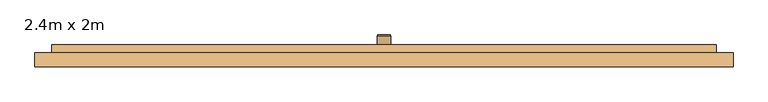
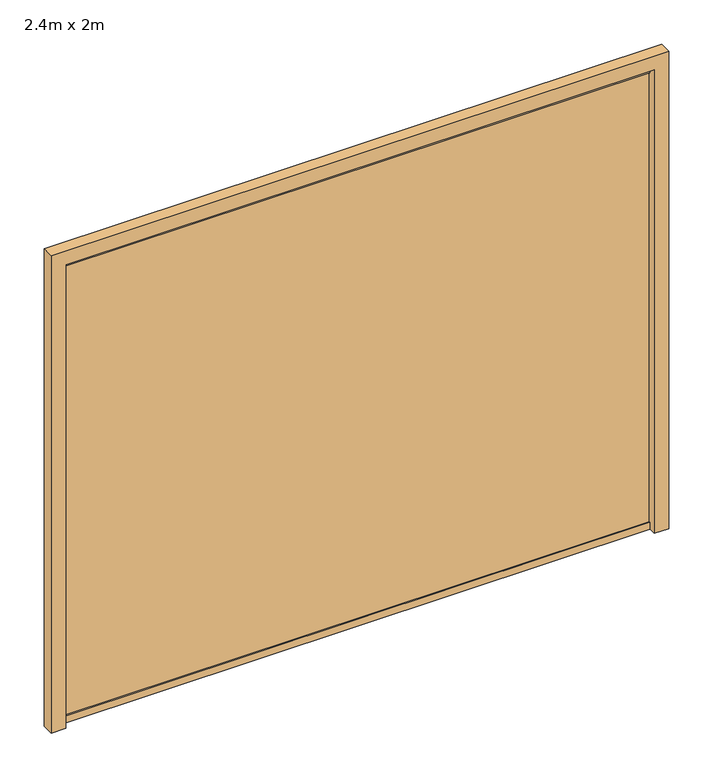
"""IFC4 building model written with IfcOpenShell, lengths in millimetres: door geometry, Garage basculante : 2.4m x 2m."""

from ifc_helpers import new_model, si_unit, frame, origin, place, context, project, spatial, polyline, circle_curve, outline, extrude, faceted_brep, source, transform, mapped, element, save
from ifc_brep_helpers import plane_surface, cylinder_surface, revolved_surface, advanced_brep


def door_2_4m_x_2m_3d3d9980(model_context):
    return source(origin(), model_context, "Body", "SolidModel", [
        advanced_brep(
        [(-37.902088, -383.5523258, 500.0), (7.902088, -383.5523258, 500.0), (10.0, -385.6502378, 500.0), (-40.0, -385.6502378, 500.0), (-15.0, -383.5523258, 500.0), (-40.0, -423.5523258, 500.0), (10.0, -423.5523258, 500.0), (-15.0, -423.5523258, 500.0)],
        [
            (0, 1, circle_curve(frame((-15.0, -383.5523258, 500.0), z_axis=(0.0, -1.0, 0.0), x_axis=(1.0, 0.0, 0.0)), 22.902088)),
            (1, 2),
            (2, 3, circle_curve(frame((-15.0, -385.6502378, 500.0), z_axis=(0.0, 1.0, 0.0), x_axis=(1.0, 0.0, 0.0)), 25.0)),
            (3, 0),
            (1, 0, circle_curve(frame((-15.0, -383.5523258, 500.0), z_axis=(0.0, -1.0, 0.0), x_axis=(1.0, 0.0, 0.0)), 22.902088)),
            (3, 2, circle_curve(frame((-15.0, -385.6502378, 500.0), z_axis=(0.0, 1.0, 0.0), x_axis=(1.0, 0.0, 0.0)), 25.0)),
            (4, 1),
            (0, 4),
            (5, 6, circle_curve(frame((-15.0, -423.5523258, 500.0), z_axis=(0.0, -1.0, 0.0), x_axis=(1.0, 0.0, 0.0)), 25.0)),
            (6, 7),
            (7, 5),
            (6, 5, circle_curve(frame((-15.0, -423.5523258, 500.0), z_axis=(0.0, -1.0, 0.0), x_axis=(1.0, 0.0, 0.0)), 25.0)),
            (2, 6),
            (5, 3),
        ],
        [
            revolved_surface(polyline([(10.0, -385.6502378, 500.0), (7.902088, -383.5523258, 500.0)]), (-15.0, 971.1651436, 500.0), (0.0, 1.0, 0.0)),
            plane_surface(frame((-15.0, -383.5523258, 500.0), z_axis=(0.0, 1.0, 0.0), x_axis=(1.0, 0.0, 0.0))),
            plane_surface(frame((-15.0, -423.5523258, 500.0), z_axis=(0.0, -1.0, 0.0), x_axis=(1.0, 0.0, 0.0))),
            cylinder_surface(frame((-15.0, 971.1651436, 500.0), z_axis=(0.0, 1.0, 0.0), x_axis=(1.0, 0.0, 0.0)), 25.0),
        ],
        [
            (0, [[1, 2, 3, 4]]),
            (0, [[5, -4, 6, -2]]),
            (1, [[7, -1, 8]]),
            (1, [[-8, -5, -7]]),
            (2, [[9, 10, 11]]),
            (2, [[12, -11, -10]]),
            (3, [[-3, 13, -9, 14]]),
            (3, [[-6, -14, -12, -13]]),
        ],
    ),
        faceted_brep([(-1215.0, -468.5523258, 2000.0), (1185.0, -468.5523258, 2000.0), (1185.0, -418.5523258, 2000.0), (-1215.0, -418.5523258, 2000.0), (1185.0, -468.5523258, 0.0), (-1215.0, -468.5523258, 0.0), (-1215.0, -418.5523258, 0.0), (1185.0, -418.5523258, 0.0), (1117.5806452, -433.5523258, 1970.0), (1117.5806452, -433.5523258, 30.0), (1097.5806452, -433.5523258, 30.0), (1097.5806452, -433.5523258, 1970.0), (1097.5806452, -423.5523258, 30.0), (1097.5806452, -423.5523258, 1970.0), (1040.1612903, -423.5523258, 30.0), (1040.1612903, -423.5523258, 1970.0), (1040.1612903, -433.5523258, 30.0), (1040.1612903, -433.5523258, 1970.0), (1020.1612903, -433.5523258, 30.0), (1020.1612903, -433.5523258, 1970.0), (1020.1612903, -423.5523258, 30.0), (1020.1612903, -423.5523258, 1970.0), (962.7419355, -423.5523258, 30.0), (962.7419355, -423.5523258, 1970.0), (962.7419355, -433.5523258, 30.0), (962.7419355, -433.5523258, 1970.0), (942.7419355, -433.5523258, 30.0), (942.7419355, -433.5523258, 1970.0), (942.7419355, -423.5523258, 30.0), (942.7419355, -423.5523258, 1970.0), (885.3225806, -423.5523258, 30.0), (885.3225806, -423.5523258, 1970.0), (885.3225806, -433.5523258, 30.0), (885.3225806, -433.5523258, 1970.0), (865.3225806, -433.5523258, 30.0), (865.3225806, -433.5523258, 1970.0), (865.3225806, -423.5523258, 30.0), (865.3225806, -423.5523258, 1970.0), (807.9032258, -423.5523258, 30.0), (807.9032258, -423.5523258, 1970.0), (807.9032258, -433.5523258, 30.0), (807.9032258, -433.5523258, 1970.0), (787.9032258, -433.5523258, 30.0), (787.9032258, -433.5523258, 1970.0), (787.9032258, -423.5523258, 30.0), (787.9032258, -423.5523258, 1970.0), (730.483871, -423.5523258, 30.0), (730.483871, -423.5523258, 1970.0), (730.483871, -433.5523258, 30.0), (730.483871, -433.5523258, 1970.0), (710.483871, -433.5523258, 30.0), (710.483871, -433.5523258, 1970.0), (710.483871, -423.5523258, 30.0), (710.483871, -423.5523258, 1970.0), (653.0645161, -423.5523258, 30.0), (653.0645161, -423.5523258, 1970.0), (653.0645161, -433.5523258, 30.0), (653.0645161, -433.5523258, 1970.0), (633.0645161, -433.5523258, 30.0), (633.0645161, -433.5523258, 1970.0), (633.0645161, -423.5523258, 30.0), (633.0645161, -423.5523258, 1970.0), (575.6451613, -423.5523258, 30.0), (575.6451613, -423.5523258, 1970.0), (575.6451613, -433.5523258, 30.0), (575.6451613, -433.5523258, 1970.0), (555.6451613, -433.5523258, 30.0), (555.6451613, -433.5523258, 1970.0), (555.6451613, -423.5523258, 30.0), (555.6451613, -423.5523258, 1970.0), (498.2258065, -423.5523258, 30.0), (498.2258065, -423.5523258, 1970.0), (498.2258065, -433.5523258, 30.0), (498.2258065, -433.5523258, 1970.0), (478.2258065, -433.5523258, 30.0), (478.2258065, -433.5523258, 1970.0), (478.2258065, -423.5523258, 30.0), (478.2258065, -423.5523258, 1970.0), (420.8064516, -423.5523258, 30.0), (420.8064516, -423.5523258, 1970.0), (420.8064516, -433.5523258, 30.0), (420.8064516, -433.5523258, 1970.0), (400.8064516, -433.5523258, 30.0), (400.8064516, -433.5523258, 1970.0), (400.8064516, -423.5523258, 30.0), (400.8064516, -423.5523258, 1970.0), (343.3870968, -423.5523258, 30.0), (343.3870968, -423.5523258, 1970.0), (343.3870968, -433.5523258, 30.0), (343.3870968, -433.5523258, 1970.0), (323.3870968, -433.5523258, 30.0), (323.3870968, -433.5523258, 1970.0), (323.3870968, -423.5523258, 30.0), (323.3870968, -423.5523258, 1970.0), (265.9677419, -423.5523258, 30.0), (265.9677419, -423.5523258, 1970.0), (265.9677419, -433.5523258, 30.0), (265.9677419, -433.5523258, 1970.0), (245.9677419, -433.5523258, 30.0), (245.9677419, -433.5523258, 1970.0), (245.9677419, -423.5523258, 30.0), (245.9677419, -423.5523258, 1970.0), (188.5483871, -423.5523258, 30.0), (188.5483871, -423.5523258, 1970.0), (188.5483871, -433.5523258, 30.0), (188.5483871, -433.5523258, 1970.0), (168.5483871, -433.5523258, 30.0), (168.5483871, -433.5523258, 1970.0), (168.5483871, -423.5523258, 30.0), (168.5483871, -423.5523258, 1970.0), (111.1290323, -423.5523258, 30.0), (111.1290323, -423.5523258, 1970.0), (111.1290323, -433.5523258, 30.0), (111.1290323, -433.5523258, 1970.0), (91.1290323, -433.5523258, 30.0), (91.1290323, -433.5523258, 1970.0), (91.1290323, -423.5523258, 30.0), (91.1290323, -423.5523258, 1970.0), (33.7096774, -423.5523258, 30.0), (33.7096774, -423.5523258, 1970.0), (33.7096774, -433.5523258, 30.0), (33.7096774, -433.5523258, 1970.0), (13.7096774, -433.5523258, 30.0), (13.7096774, -433.5523258, 1970.0), (13.7096774, -423.5523258, 30.0), (13.7096774, -423.5523258, 1970.0), (-43.7096774, -423.5523258, 30.0), (-43.7096774, -423.5523258, 1970.0), (-43.7096774, -433.5523258, 30.0), (-43.7096774, -433.5523258, 1970.0), (-63.7096774, -433.5523258, 30.0), (-63.7096774, -433.5523258, 1970.0), (-63.7096774, -423.5523258, 30.0), (-63.7096774, -423.5523258, 1970.0), (-121.1290323, -423.5523258, 30.0), (-121.1290323, -423.5523258, 1970.0), (-121.1290323, -433.5523258, 30.0), (-121.1290323, -433.5523258, 1970.0), (-141.1290323, -433.5523258, 30.0), (-141.1290323, -433.5523258, 1970.0), (-141.1290323, -423.5523258, 30.0), (-141.1290323, -423.5523258, 1970.0), (-198.5483871, -423.5523258, 30.0), (-198.5483871, -423.5523258, 1970.0), (-198.5483871, -433.5523258, 30.0), (-198.5483871, -433.5523258, 1970.0), (-218.5483871, -433.5523258, 30.0), (-218.5483871, -433.5523258, 1970.0), (-218.5483871, -423.5523258, 30.0), (-218.5483871, -423.5523258, 1970.0), (-275.9677419, -423.5523258, 30.0), (-275.9677419, -423.5523258, 1970.0), (-275.9677419, -433.5523258, 30.0), (-275.9677419, -433.5523258, 1970.0), (-295.9677419, -433.5523258, 30.0), (-295.9677419, -433.5523258, 1970.0), (-295.9677419, -423.5523258, 30.0), (-295.9677419, -423.5523258, 1970.0), (-353.3870968, -423.5523258, 30.0), (-353.3870968, -423.5523258, 1970.0), (-353.3870968, -433.5523258, 30.0), (-353.3870968, -433.5523258, 1970.0), (-373.3870968, -433.5523258, 30.0), (-373.3870968, -433.5523258, 1970.0), (-373.3870968, -423.5523258, 30.0), (-373.3870968, -423.5523258, 1970.0), (-430.8064516, -423.5523258, 30.0), (-430.8064516, -423.5523258, 1970.0), (-430.8064516, -433.5523258, 30.0), (-430.8064516, -433.5523258, 1970.0), (-450.8064516, -433.5523258, 30.0), (-450.8064516, -433.5523258, 1970.0), (-450.8064516, -423.5523258, 30.0), (-450.8064516, -423.5523258, 1970.0), (-508.2258065, -423.5523258, 30.0), (-508.2258065, -423.5523258, 1970.0), (-508.2258065, -433.5523258, 30.0), (-508.2258065, -433.5523258, 1970.0), (-528.2258065, -433.5523258, 30.0), (-528.2258065, -433.5523258, 1970.0), (-528.2258065, -423.5523258, 30.0), (-528.2258065, -423.5523258, 1970.0), (-585.6451613, -423.5523258, 30.0), (-585.6451613, -423.5523258, 1970.0), (-585.6451613, -433.5523258, 30.0), (-585.6451613, -433.5523258, 1970.0), (-605.6451613, -433.5523258, 30.0), (-605.6451613, -433.5523258, 1970.0), (-605.6451613, -423.5523258, 30.0), (-605.6451613, -423.5523258, 1970.0), (-663.0645161, -423.5523258, 30.0), (-663.0645161, -423.5523258, 1970.0), (-663.0645161, -433.5523258, 30.0), (-663.0645161, -433.5523258, 1970.0), (-683.0645161, -433.5523258, 30.0), (-683.0645161, -433.5523258, 1970.0), (-683.0645161, -423.5523258, 30.0), (-683.0645161, -423.5523258, 1970.0), (-740.483871, -423.5523258, 30.0), (-740.483871, -423.5523258, 1970.0), (-740.483871, -433.5523258, 30.0), (-740.483871, -433.5523258, 1970.0), (-760.483871, -433.5523258, 30.0), (-760.483871, -433.5523258, 1970.0), (-760.483871, -423.5523258, 30.0), (-760.483871, -423.5523258, 1970.0), (-817.9032258, -423.5523258, 30.0), (-817.9032258, -423.5523258, 1970.0), (-817.9032258, -433.5523258, 30.0), (-817.9032258, -433.5523258, 1970.0), (-837.9032258, -433.5523258, 30.0), (-837.9032258, -433.5523258, 1970.0), (-837.9032258, -423.5523258, 30.0), (-837.9032258, -423.5523258, 1970.0), (-895.3225806, -423.5523258, 30.0), (-895.3225806, -423.5523258, 1970.0), (-895.3225806, -433.5523258, 30.0), (-895.3225806, -433.5523258, 1970.0), (-915.3225806, -433.5523258, 30.0), (-915.3225806, -433.5523258, 1970.0), (-915.3225806, -423.5523258, 30.0), (-915.3225806, -423.5523258, 1970.0), (-972.7419355, -423.5523258, 30.0), (-972.7419355, -423.5523258, 1970.0), (-972.7419355, -433.5523258, 30.0), (-972.7419355, -433.5523258, 1970.0), (-992.7419355, -433.5523258, 30.0), (-992.7419355, -433.5523258, 1970.0), (-992.7419355, -423.5523258, 30.0), (-992.7419355, -423.5523258, 1970.0), (-1050.1612903, -423.5523258, 30.0), (-1050.1612903, -423.5523258, 1970.0), (-1050.1612903, -433.5523258, 30.0), (-1050.1612903, -433.5523258, 1970.0), (-1070.1612903, -433.5523258, 30.0), (-1070.1612903, -433.5523258, 1970.0), (-1070.1612903, -423.5523258, 30.0), (-1070.1612903, -423.5523258, 1970.0), (-1127.5806452, -423.5523258, 30.0), (-1127.5806452, -423.5523258, 1970.0), (-1127.5806452, -433.5523258, 30.0), (-1127.5806452, -433.5523258, 1970.0), (-1147.5806452, -433.5523258, 30.0), (-1147.5806452, -433.5523258, 1970.0), (-1147.5806452, -423.5523258, 30.0), (-1147.5806452, -423.5523258, 1970.0), (-1215.0, -423.5523258, 30.0), (-1215.0, -423.5523258, 1970.0), (-1215.0, -418.5523258, 1970.0), (-1215.0, -418.5523258, 30.0), (-1215.0, -468.5523258, 30.0), (-1215.0, -463.5523258, 30.0), (-1215.0, -463.5523258, 1970.0), (-1215.0, -468.5523258, 1970.0), (1185.0, -463.5523258, 30.0), (1185.0, -463.5523258, 1970.0), (1185.0, -468.5523258, 1970.0), (1185.0, -468.5523258, 30.0), (1185.0, -418.5523258, 30.0), (1185.0, -423.5523258, 30.0), (1185.0, -423.5523258, 1970.0), (1185.0, -418.5523258, 1970.0), (1117.5806452, -423.5523258, 30.0), (1117.5806452, -423.5523258, 1970.0)], [[[0, 1, 2, 3]], [[4, 5, 6, 7]], [[8, 9, 10, 11]], [[11, 10, 12, 13]], [[13, 12, 14, 15]], [[15, 14, 16, 17]], [[17, 16, 18, 19]], [[19, 18, 20, 21]], [[21, 20, 22, 23]], [[23, 22, 24, 25]], [[25, 24, 26, 27]], [[27, 26, 28, 29]], [[29, 28, 30, 31]], [[31, 30, 32, 33]], [[33, 32, 34, 35]], [[35, 34, 36, 37]], [[37, 36, 38, 39]], [[39, 38, 40, 41]], [[41, 40, 42, 43]], [[43, 42, 44, 45]], [[45, 44, 46, 47]], [[47, 46, 48, 49]], [[49, 48, 50, 51]], [[51, 50, 52, 53]], [[53, 52, 54, 55]], [[55, 54, 56, 57]], [[57, 56, 58, 59]], [[59, 58, 60, 61]], [[61, 60, 62, 63]], [[63, 62, 64, 65]], [[65, 64, 66, 67]], [[67, 66, 68, 69]], [[69, 68, 70, 71]], [[71, 70, 72, 73]], [[73, 72, 74, 75]], [[75, 74, 76, 77]], [[77, 76, 78, 79]], [[79, 78, 80, 81]], [[81, 80, 82, 83]], [[83, 82, 84, 85]], [[85, 84, 86, 87]], [[87, 86, 88, 89]], [[89, 88, 90, 91]], [[91, 90, 92, 93]], [[93, 92, 94, 95]], [[95, 94, 96, 97]], [[97, 96, 98, 99]], [[99, 98, 100, 101]], [[101, 100, 102, 103]], [[103, 102, 104, 105]], [[105, 104, 106, 107]], [[107, 106, 108, 109]], [[109, 108, 110, 111]], [[111, 110, 112, 113]], [[113, 112, 114, 115]], [[115, 114, 116, 117]], [[117, 116, 118, 119]], [[119, 118, 120, 121]], [[121, 120, 122, 123]], [[123, 122, 124, 125]], [[125, 124, 126, 127]], [[127, 126, 128, 129]], [[129, 128, 130, 131]], [[131, 130, 132, 133]], [[133, 132, 134, 135]], [[135, 134, 136, 137]], [[137, 136, 138, 139]], [[139, 138, 140, 141]], [[141, 140, 142, 143]], [[143, 142, 144, 145]], [[145, 144, 146, 147]], [[147, 146, 148, 149]], [[149, 148, 150, 151]], [[151, 150, 152, 153]], [[153, 152, 154, 155]], [[155, 154, 156, 157]], [[157, 156, 158, 159]], [[159, 158, 160, 161]], [[161, 160, 162, 163]], [[163, 162, 164, 165]], [[165, 164, 166, 167]], [[167, 166, 168, 169]], [[169, 168, 170, 171]], [[171, 170, 172, 173]], [[173, 172, 174, 175]], [[175, 174, 176, 177]], [[177, 176, 178, 179]], [[179, 178, 180, 181]], [[181, 180, 182, 183]], [[183, 182, 184, 185]], [[185, 184, 186, 187]], [[187, 186, 188, 189]], [[189, 188, 190, 191]], [[191, 190, 192, 193]], [[193, 192, 194, 195]], [[195, 194, 196, 197]], [[197, 196, 198, 199]], [[199, 198, 200, 201]], [[201, 200, 202, 203]], [[203, 202, 204, 205]], [[205, 204, 206, 207]], [[207, 206, 208, 209]], [[209, 208, 210, 211]], [[211, 210, 212, 213]], [[213, 212, 214, 215]], [[215, 214, 216, 217]], [[217, 216, 218, 219]], [[219, 218, 220, 221]], [[221, 220, 222, 223]], [[223, 222, 224, 225]], [[225, 224, 226, 227]], [[227, 226, 228, 229]], [[229, 228, 230, 231]], [[231, 230, 232, 233]], [[233, 232, 234, 235]], [[235, 234, 236, 237]], [[237, 236, 238, 239]], [[239, 238, 240, 241]], [[241, 240, 242, 243]], [[243, 242, 244, 245]], [[245, 244, 246, 247]], [[0, 3, 248, 247, 246, 249, 6, 5, 250, 251, 252, 253]], [[252, 251, 254, 255]], [[2, 1, 256, 255, 254, 257, 4, 7, 258, 259, 260, 261]], [[260, 259, 262, 263]], [[9, 8, 263, 262]], [[256, 253, 252, 255]], [[248, 261, 260, 263, 8, 11, 13, 15, 17, 19, 21, 23, 25, 27, 29, 31, 33, 35, 37, 39, 41, 43, 45, 47, 49, 51, 53, 55, 57, 59, 61, 63, 65, 67, 69, 71, 73, 75, 77, 79, 81, 83, 85, 87, 89, 91, 93, 95, 97, 99, 101, 103, 105, 107, 109, 111, 113, 115, 117, 119, 121, 123, 125, 127, 129, 131, 133, 135, 137, 139, 141, 143, 145, 147, 149, 151, 153, 155, 157, 159, 161, 163, 165, 167, 169, 171, 173, 175, 177, 179, 181, 183, 185, 187, 189, 191, 193, 195, 197, 199, 201, 203, 205, 207, 209, 211, 213, 215, 217, 219, 221, 223, 225, 227, 229, 231, 233, 235, 237, 239, 241, 243, 245, 247]], [[2, 261, 248, 3]], [[256, 1, 0, 253]], [[4, 257, 250, 5]], [[258, 7, 6, 249]], [[250, 257, 254, 251]], [[258, 249, 246, 244, 242, 240, 238, 236, 234, 232, 230, 228, 226, 224, 222, 220, 218, 216, 214, 212, 210, 208, 206, 204, 202, 200, 198, 196, 194, 192, 190, 188, 186, 184, 182, 180, 178, 176, 174, 172, 170, 168, 166, 164, 162, 160, 158, 156, 154, 152, 150, 148, 146, 144, 142, 140, 138, 136, 134, 132, 130, 128, 126, 124, 122, 120, 118, 116, 114, 112, 110, 108, 106, 104, 102, 100, 98, 96, 94, 92, 90, 88, 86, 84, 82, 80, 78, 76, 74, 72, 70, 68, 66, 64, 62, 60, 58, 56, 54, 52, 50, 48, 46, 44, 42, 40, 38, 36, 34, 32, 30, 28, 26, 24, 22, 20, 18, 16, 14, 12, 10, 9, 262, 259]]]),
        extrude(outline(polyline([(0.0, -1275.0), (0.0, -1215.0), (2000.0, -1215.0), (2000.0, 1185.0), (0.0, 1185.0), (0.0, 1245.0), (2060.0, 1245.0), (2060.0, -1275.0), (0.0, -1275.0)])), frame((0.0, -498.5523258, 0.0), z_axis=(0.0, 1.0, 0.0), x_axis=(0.0, 0.0, 1.0)), (0.0, 0.0, 1.0), 50.0),
    ])


if __name__ == "__main__":
    model = new_model("IFC4")
    model_context = context("Model", 3, world=origin())
    ifc_project = project(units=[si_unit("LENGTHUNIT", "METRE", prefix="MILLI")], contexts=[model_context])
    site = spatial("IfcSite", under=ifc_project)
    building = spatial("IfcBuilding", under=site)
    placement = place(None, origin())
    door_2_4m_x_2m_shape = door_2_4m_x_2m_3d3d9980(model_context)
    element("IfcDoor", 1, ObjectType="Garage basculante : 2.4m x 2m", at=placement, inside=building, context=model_context, shape_type="MappedRepresentation", body=[
        mapped(door_2_4m_x_2m_shape, transform((0.0, 0.0, 0.0), x_axis=(1.0, 0.0, 0.0), y_axis=(0.0, 1.0, 0.0), z_axis=(0.0, 0.0, 1.0))),
    ])
    save(model, "model.ifc")
